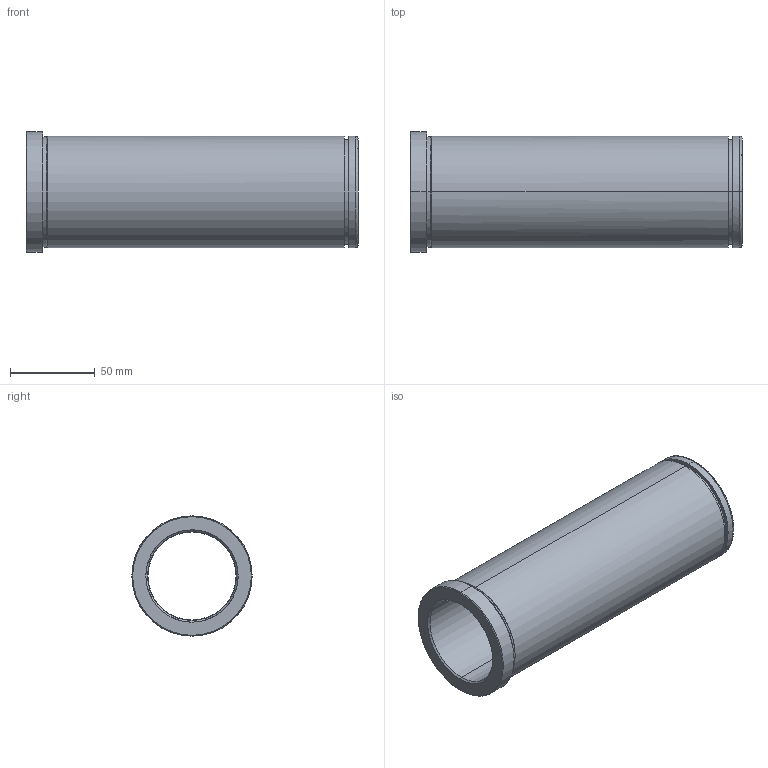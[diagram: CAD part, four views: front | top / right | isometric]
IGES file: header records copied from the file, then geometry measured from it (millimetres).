
Start section: START RECORD GO HERE.
Global section: file name: 553-52X196.igs; native system: DASSAULT SYSTEMES CATIA V5 R20 - www.3ds.com; preprocessor: CATIA Version 5 Release 20 ; author: Utente; organization: NB04-ASUS; date: 20210608.195929; units: millimetre
Bounding box: 196 x 71 x 71 mm (x, y, z)
Surface area: 76999.6 mm2 (no closed solid volume)
Topology: 0 solids, 0 shells, 32 faces, 204 edges, 204 vertices
Faces by surface type: revolution 26, plane 6
